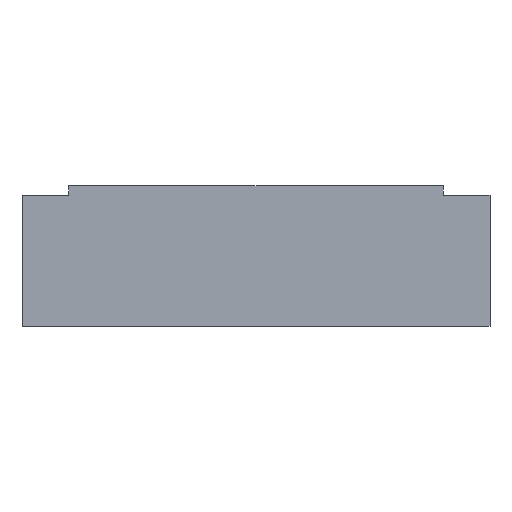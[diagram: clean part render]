
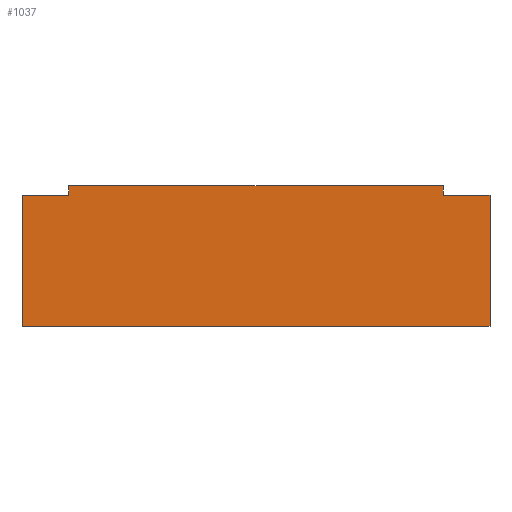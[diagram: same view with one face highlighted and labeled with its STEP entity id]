
A CAD part, left-side view. The second image highlights one B-rep face of the part: STEP entity #1037.
In plain terms, the highlighted planar face has unit normal (-1, 0, 0).
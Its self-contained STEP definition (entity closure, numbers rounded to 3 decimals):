
#54 = DIRECTION ( 'NONE',  ( 0., -1., 0. ) ) ;
#61 = EDGE_CURVE ( 'NONE', #1158, #393, #520, .T. ) ;
#99 = VECTOR ( 'NONE', #607, 1000. ) ;
#182 = EDGE_CURVE ( 'NONE', #333, #1372, #1009, .T. ) ;
#207 = ORIENTED_EDGE ( 'NONE', *, *, #1553, .F. ) ;
#221 = CARTESIAN_POINT ( 'NONE',  ( -48., 40., 30. ) ) ;
#222 = PLANE ( 'NONE',  #572 ) ;
#236 = FACE_OUTER_BOUND ( 'NONE', #599, .T. ) ;
#244 = ORIENTED_EDGE ( 'NONE', *, *, #1469, .F. ) ;
#257 = CARTESIAN_POINT ( 'NONE',  ( -48., 40., 28. ) ) ;
#306 = CARTESIAN_POINT ( 'NONE',  ( -48., 50., 28. ) ) ;
#320 = CARTESIAN_POINT ( 'NONE',  ( -48., 50., 0. ) ) ;
#333 = VERTEX_POINT ( 'NONE', #306 ) ;
#350 = EDGE_CURVE ( 'NONE', #1275, #1008, #1300, .T. ) ;
#357 = VECTOR ( 'NONE', #54, 1000. ) ;
#366 = ORIENTED_EDGE ( 'NONE', *, *, #1119, .F. ) ;
#382 = VECTOR ( 'NONE', #1517, 1000. ) ;
#393 = VERTEX_POINT ( 'NONE', #1532 ) ;
#473 = LINE ( 'NONE', #1232, #1710 ) ;
#498 = CARTESIAN_POINT ( 'NONE',  ( -48., -50., 30. ) ) ;
#520 = LINE ( 'NONE', #979, #1509 ) ;
#554 = ORIENTED_EDGE ( 'NONE', *, *, #683, .T. ) ;
#572 = AXIS2_PLACEMENT_3D ( 'NONE', #498, #1445, #1180 ) ;
#599 = EDGE_LOOP ( 'NONE', ( #366, #769, #244, #1734, #207, #1352, #1370, #554 ) ) ;
#607 = DIRECTION ( 'NONE',  ( 0., 0., -1. ) ) ;
#683 = EDGE_CURVE ( 'NONE', #966, #1619, #473, .T. ) ;
#689 = CARTESIAN_POINT ( 'NONE',  ( -48., -50., 30. ) ) ;
#691 = CARTESIAN_POINT ( 'NONE',  ( -48., -40., 28. ) ) ;
#712 = LINE ( 'NONE', #880, #1402 ) ;
#769 = ORIENTED_EDGE ( 'NONE', *, *, #61, .F. ) ;
#806 = LINE ( 'NONE', #884, #99 ) ;
#841 = VECTOR ( 'NONE', #1672, 1000. ) ;
#842 = EDGE_CURVE ( 'NONE', #333, #966, #806, .T. ) ;
#880 = CARTESIAN_POINT ( 'NONE',  ( -48., 40., 28. ) ) ;
#884 = CARTESIAN_POINT ( 'NONE',  ( -48., 50., 30. ) ) ;
#888 = CARTESIAN_POINT ( 'NONE',  ( -48., -50., 30. ) ) ;
#923 = CARTESIAN_POINT ( 'NONE',  ( -48., -40., 30. ) ) ;
#966 = VERTEX_POINT ( 'NONE', #320 ) ;
#979 = CARTESIAN_POINT ( 'NONE',  ( -48., -40., 28. ) ) ;
#992 = DIRECTION ( 'NONE',  ( 0., 0., 1. ) ) ;
#1008 = VERTEX_POINT ( 'NONE', #923 ) ;
#1009 = LINE ( 'NONE', #1656, #841 ) ;
#1037 = ADVANCED_FACE ( 'NONE', ( #236 ), #222, .F. ) ;
#1068 = VECTOR ( 'NONE', #1115, 1000. ) ;
#1115 = DIRECTION ( 'NONE',  ( 0., 0., -1. ) ) ;
#1119 = EDGE_CURVE ( 'NONE', #393, #1619, #1151, .T. ) ;
#1151 = LINE ( 'NONE', #689, #1068 ) ;
#1158 = VERTEX_POINT ( 'NONE', #1383 ) ;
#1180 = DIRECTION ( 'NONE',  ( 0., 0., -1. ) ) ;
#1232 = CARTESIAN_POINT ( 'NONE',  ( -48., -50., 0. ) ) ;
#1241 = DIRECTION ( 'NONE',  ( 0., -1., 0. ) ) ;
#1269 = CARTESIAN_POINT ( 'NONE',  ( -48., -50., 0. ) ) ;
#1275 = VERTEX_POINT ( 'NONE', #221 ) ;
#1300 = LINE ( 'NONE', #888, #357 ) ;
#1352 = ORIENTED_EDGE ( 'NONE', *, *, #182, .F. ) ;
#1370 = ORIENTED_EDGE ( 'NONE', *, *, #842, .T. ) ;
#1372 = VERTEX_POINT ( 'NONE', #257 ) ;
#1383 = CARTESIAN_POINT ( 'NONE',  ( -48., -40., 28. ) ) ;
#1402 = VECTOR ( 'NONE', #992, 1000. ) ;
#1445 = DIRECTION ( 'NONE',  ( 1., 0., 0. ) ) ;
#1469 = EDGE_CURVE ( 'NONE', #1008, #1158, #1547, .T. ) ;
#1495 = DIRECTION ( 'NONE',  ( 0., -1., 0. ) ) ;
#1509 = VECTOR ( 'NONE', #1241, 1000. ) ;
#1517 = DIRECTION ( 'NONE',  ( 0., 0., -1. ) ) ;
#1532 = CARTESIAN_POINT ( 'NONE',  ( -48., -50., 28. ) ) ;
#1547 = LINE ( 'NONE', #691, #382 ) ;
#1553 = EDGE_CURVE ( 'NONE', #1372, #1275, #712, .T. ) ;
#1619 = VERTEX_POINT ( 'NONE', #1269 ) ;
#1656 = CARTESIAN_POINT ( 'NONE',  ( -48., 58.266, 28. ) ) ;
#1672 = DIRECTION ( 'NONE',  ( 0., -1., 0. ) ) ;
#1710 = VECTOR ( 'NONE', #1495, 1000. ) ;
#1734 = ORIENTED_EDGE ( 'NONE', *, *, #350, .F. ) ;
